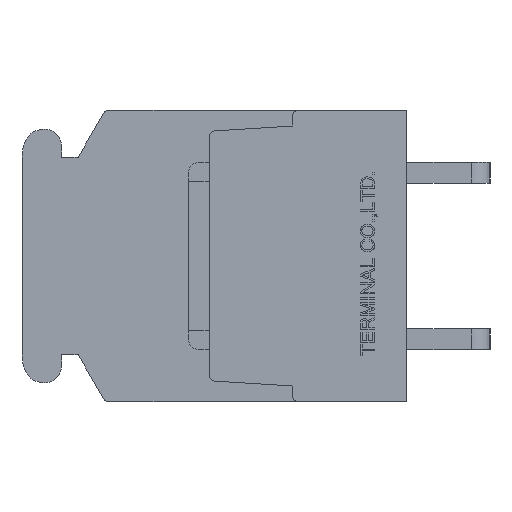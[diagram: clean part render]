
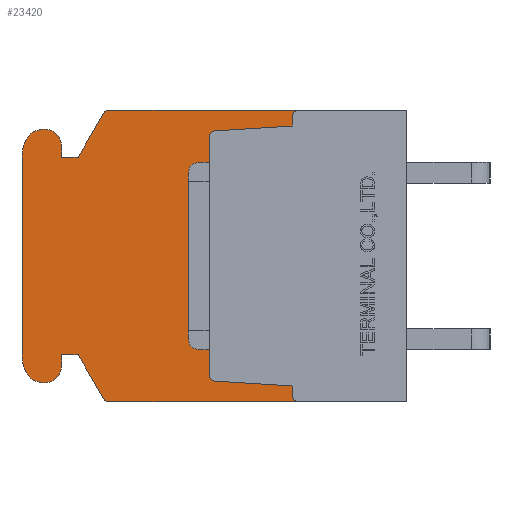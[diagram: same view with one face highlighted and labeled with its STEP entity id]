
A CAD part, left-side view. The second image highlights one B-rep face of the part: STEP entity #23420.
In plain terms, the highlighted planar face has unit normal (-1, 0, 0).
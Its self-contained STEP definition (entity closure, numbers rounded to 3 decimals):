
#437=CIRCLE('',#23824,0.3);
#438=CIRCLE('',#23828,0.3);
#439=CIRCLE('',#23830,0.3);
#440=CIRCLE('',#23834,0.3);
#887=CIRCLE('',#25143,0.3);
#888=CIRCLE('',#25144,0.8);
#889=CIRCLE('',#25145,1.);
#890=CIRCLE('',#25146,2.);
#891=CIRCLE('',#25147,2.);
#892=CIRCLE('',#25148,1.);
#893=CIRCLE('',#25149,0.8);
#894=CIRCLE('',#25150,0.3);
#1274=VERTEX_POINT('',#30489);
#1275=VERTEX_POINT('',#30490);
#1628=VERTEX_POINT('',#32011);
#1629=VERTEX_POINT('',#32015);
#1630=VERTEX_POINT('',#32019);
#1631=VERTEX_POINT('',#32023);
#1632=VERTEX_POINT('',#32027);
#1633=VERTEX_POINT('',#32028);
#1634=VERTEX_POINT('',#32033);
#1635=VERTEX_POINT('',#32037);
#2883=VERTEX_POINT('',#35846);
#2918=VERTEX_POINT('',#35953);
#3238=VERTEX_POINT('',#36962);
#3239=VERTEX_POINT('',#36964);
#3240=VERTEX_POINT('',#36966);
#3241=VERTEX_POINT('',#36968);
#3242=VERTEX_POINT('',#36970);
#3243=VERTEX_POINT('',#36972);
#3244=VERTEX_POINT('',#36974);
#3245=VERTEX_POINT('',#36976);
#3246=VERTEX_POINT('',#36978);
#3247=VERTEX_POINT('',#36980);
#3248=VERTEX_POINT('',#36982);
#3249=VERTEX_POINT('',#36984);
#3250=VERTEX_POINT('',#36986);
#3251=VERTEX_POINT('',#36988);
#3252=VERTEX_POINT('',#36990);
#3253=VERTEX_POINT('',#36992);
#3641=VECTOR('',#25389,1.);
#4050=VECTOR('',#25945,1.);
#4052=VECTOR('',#25948,1.);
#4057=VECTOR('',#25962,1.);
#4059=VECTOR('',#25965,1.);
#5359=VECTOR('',#28881,1.);
#5396=VECTOR('',#28976,1.);
#5791=VECTOR('',#29713,1.);
#5792=VECTOR('',#29714,1.);
#5793=VECTOR('',#29715,1.);
#5794=VECTOR('',#29718,1.);
#5795=VECTOR('',#29723,1.);
#5796=VECTOR('',#29728,1.);
#5797=VECTOR('',#29731,1.);
#5798=VECTOR('',#29732,1.);
#5799=VECTOR('',#29733,1.);
#6246=LINE('',#30488,#3641);
#6655=LINE('',#32014,#4050);
#6657=LINE('',#32018,#4052);
#6662=LINE('',#32032,#4057);
#6664=LINE('',#32036,#4059);
#7964=LINE('',#35847,#5359);
#8001=LINE('',#35952,#5396);
#8396=LINE('',#36963,#5791);
#8397=LINE('',#36965,#5792);
#8398=LINE('',#36967,#5793);
#8399=LINE('',#36971,#5794);
#8400=LINE('',#36977,#5795);
#8401=LINE('',#36983,#5796);
#8402=LINE('',#36987,#5797);
#8403=LINE('',#36989,#5798);
#8404=LINE('',#36991,#5799);
#8851=EDGE_CURVE('',#1274,#1275,#6246,.T.);
#9369=EDGE_CURVE('',#1628,#1274,#437,.T.);
#9371=EDGE_CURVE('',#1629,#1628,#6655,.T.);
#9373=EDGE_CURVE('',#1630,#1629,#6657,.T.);
#9375=EDGE_CURVE('',#1631,#1630,#438,.T.);
#9377=EDGE_CURVE('',#1632,#1633,#439,.T.);
#9380=EDGE_CURVE('',#1634,#1632,#6662,.T.);
#9382=EDGE_CURVE('',#1635,#1634,#6664,.T.);
#9384=EDGE_CURVE('',#1275,#1635,#440,.T.);
#11200=EDGE_CURVE('',#2883,#1633,#7964,.T.);
#11253=EDGE_CURVE('',#1631,#2918,#8001,.T.);
#11802=EDGE_CURVE('',#3238,#2883,#887,.T.);
#11803=EDGE_CURVE('',#3239,#3238,#8396,.T.);
#11804=EDGE_CURVE('',#3240,#3239,#8397,.T.);
#11805=EDGE_CURVE('',#3241,#3240,#8398,.T.);
#11806=EDGE_CURVE('',#3242,#3241,#888,.T.);
#11807=EDGE_CURVE('',#3243,#3242,#8399,.T.);
#11808=EDGE_CURVE('',#3244,#3243,#889,.T.);
#11809=EDGE_CURVE('',#3245,#3244,#890,.T.);
#11810=EDGE_CURVE('',#3246,#3245,#8400,.T.);
#11811=EDGE_CURVE('',#3247,#3246,#891,.T.);
#11812=EDGE_CURVE('',#3248,#3247,#892,.T.);
#11813=EDGE_CURVE('',#3249,#3248,#8401,.T.);
#11814=EDGE_CURVE('',#3250,#3249,#893,.T.);
#11815=EDGE_CURVE('',#3251,#3250,#8402,.T.);
#11816=EDGE_CURVE('',#3252,#3251,#8403,.T.);
#11817=EDGE_CURVE('',#3253,#3252,#8404,.T.);
#11818=EDGE_CURVE('',#2918,#3253,#894,.T.);
#18269=ORIENTED_EDGE('',*,*,#9377,.T.);
#18270=ORIENTED_EDGE('',*,*,#11200,.F.);
#18271=ORIENTED_EDGE('',*,*,#11802,.F.);
#18272=ORIENTED_EDGE('',*,*,#11803,.F.);
#18273=ORIENTED_EDGE('',*,*,#11804,.F.);
#18274=ORIENTED_EDGE('',*,*,#11805,.F.);
#18275=ORIENTED_EDGE('',*,*,#11806,.F.);
#18276=ORIENTED_EDGE('',*,*,#11807,.F.);
#18277=ORIENTED_EDGE('',*,*,#11808,.F.);
#18278=ORIENTED_EDGE('',*,*,#11809,.F.);
#18279=ORIENTED_EDGE('',*,*,#11810,.F.);
#18280=ORIENTED_EDGE('',*,*,#11811,.F.);
#18281=ORIENTED_EDGE('',*,*,#11812,.F.);
#18282=ORIENTED_EDGE('',*,*,#11813,.F.);
#18283=ORIENTED_EDGE('',*,*,#11814,.F.);
#18284=ORIENTED_EDGE('',*,*,#11815,.F.);
#18285=ORIENTED_EDGE('',*,*,#11816,.F.);
#18286=ORIENTED_EDGE('',*,*,#11817,.F.);
#18287=ORIENTED_EDGE('',*,*,#11818,.F.);
#18288=ORIENTED_EDGE('',*,*,#11253,.F.);
#18289=ORIENTED_EDGE('',*,*,#9375,.T.);
#18290=ORIENTED_EDGE('',*,*,#9373,.T.);
#18291=ORIENTED_EDGE('',*,*,#9371,.T.);
#18292=ORIENTED_EDGE('',*,*,#9369,.T.);
#18293=ORIENTED_EDGE('',*,*,#8851,.T.);
#18294=ORIENTED_EDGE('',*,*,#9384,.T.);
#18295=ORIENTED_EDGE('',*,*,#9382,.T.);
#18296=ORIENTED_EDGE('',*,*,#9380,.T.);
#20662=EDGE_LOOP('',(#18269,#18270,#18271,#18272,#18273,#18274,#18275,#18276,
#18277,#18278,#18279,#18280,#18281,#18282,#18283,#18284,#18285,#18286,#18287,
#18288,#18289,#18290,#18291,#18292,#18293,#18294,#18295,#18296));
#22094=FACE_BOUND('',#20662,.T.);
#23420=ADVANCED_FACE('',(#22094),#39412,.F.);
#23824=AXIS2_PLACEMENT_3D('',#32010,#25941,#25942);
#23828=AXIS2_PLACEMENT_3D('',#32022,#25952,#25953);
#23830=AXIS2_PLACEMENT_3D('',#32026,#25957,#25958);
#23834=AXIS2_PLACEMENT_3D('',#32040,#25969,#25970);
#25142=AXIS2_PLACEMENT_3D('',#36960,#29710,$);
#25143=AXIS2_PLACEMENT_3D('',#36961,#29711,#29712);
#25144=AXIS2_PLACEMENT_3D('',#36969,#29716,#29717);
#25145=AXIS2_PLACEMENT_3D('',#36973,#29719,#29720);
#25146=AXIS2_PLACEMENT_3D('',#36975,#29721,#29722);
#25147=AXIS2_PLACEMENT_3D('',#36979,#29724,#29725);
#25148=AXIS2_PLACEMENT_3D('',#36981,#29726,#29727);
#25149=AXIS2_PLACEMENT_3D('',#36985,#29729,#29730);
#25150=AXIS2_PLACEMENT_3D('',#36993,#29734,#29735);
#25389=DIRECTION('',(0.,0.,1.));
#25941=DIRECTION('',(1.,0.,0.));
#25942=DIRECTION('',(0.,0.,-0.3));
#25945=DIRECTION('',(0.,0.998,0.062));
#25948=DIRECTION('',(0.,0.,1.));
#25952=DIRECTION('',(1.,0.,0.));
#25953=DIRECTION('',(0.,0.,-0.3));
#25957=DIRECTION('',(1.,0.,0.));
#25958=DIRECTION('',(0.,0.,-0.3));
#25962=DIRECTION('',(0.,0.,1.));
#25965=DIRECTION('',(0.,-0.998,0.062));
#25969=DIRECTION('',(1.,0.,0.));
#25970=DIRECTION('',(0.,0.,-0.3));
#28881=DIRECTION('',(0.,-1.,0.));
#28976=DIRECTION('',(0.,1.,0.));
#29710=DIRECTION('',(1.,0.,0.));
#29711=DIRECTION('',(1.,0.,0.));
#29712=DIRECTION('',(0.,0.,-0.3));
#29713=DIRECTION('',(0.,-0.5,0.866));
#29714=DIRECTION('',(0.,-1.,0.));
#29715=DIRECTION('',(0.,0.,-1.));
#29716=DIRECTION('',(1.,0.,0.));
#29717=DIRECTION('',(0.,0.,-0.8));
#29718=DIRECTION('',(0.,-1.,0.));
#29719=DIRECTION('',(1.,0.,0.));
#29720=DIRECTION('',(0.,0.,-1.));
#29721=DIRECTION('',(1.,0.,0.));
#29722=DIRECTION('',(0.,0.,-2.));
#29723=DIRECTION('',(0.,0.,1.));
#29724=DIRECTION('',(1.,0.,0.));
#29725=DIRECTION('',(0.,0.,-2.));
#29726=DIRECTION('',(1.,0.,0.));
#29727=DIRECTION('',(0.,0.,-1.));
#29728=DIRECTION('',(0.,1.,0.));
#29729=DIRECTION('',(1.,0.,0.));
#29730=DIRECTION('',(0.,0.,-0.8));
#29731=DIRECTION('',(0.,0.,-1.));
#29732=DIRECTION('',(0.,1.,0.));
#29733=DIRECTION('',(0.,0.5,0.866));
#29734=DIRECTION('',(1.,0.,0.));
#29735=DIRECTION('',(0.,0.,-0.3));
#30488=CARTESIAN_POINT('',(8.15,9.5,0.));
#30489=CARTESIAN_POINT('',(8.15,9.5,-5.718));
#30490=CARTESIAN_POINT('',(8.15,9.5,5.718));
#32010=CARTESIAN_POINT('',(8.15,9.2,-5.718));
#32011=CARTESIAN_POINT('',(8.15,9.219,-6.018));
#32014=CARTESIAN_POINT('',(8.15,8.522,-6.061));
#32015=CARTESIAN_POINT('',(8.15,5.5,-6.25));
#32018=CARTESIAN_POINT('',(8.15,5.5,-3.237));
#32019=CARTESIAN_POINT('',(8.15,5.5,-6.7));
#32022=CARTESIAN_POINT('',(8.15,5.2,-6.7));
#32023=CARTESIAN_POINT('',(8.15,5.2,-7.));
#32026=CARTESIAN_POINT('',(8.15,5.2,6.7));
#32027=CARTESIAN_POINT('',(8.15,5.5,6.7));
#32028=CARTESIAN_POINT('',(8.15,5.2,7.));
#32032=CARTESIAN_POINT('',(8.15,5.5,3.238));
#32033=CARTESIAN_POINT('',(8.15,5.5,6.25));
#32036=CARTESIAN_POINT('',(8.15,8.522,6.061));
#32037=CARTESIAN_POINT('',(8.15,9.219,6.018));
#32040=CARTESIAN_POINT('',(8.15,9.2,5.718));
#35846=CARTESIAN_POINT('',(8.15,14.327,7.));
#35847=CARTESIAN_POINT('',(8.15,14.327,7.));
#35952=CARTESIAN_POINT('',(8.15,0.,-7.));
#35953=CARTESIAN_POINT('',(8.15,14.327,-7.));
#36960=CARTESIAN_POINT('',(8.15,9.311,0.));
#36961=CARTESIAN_POINT('',(8.15,14.327,6.7));
#36962=CARTESIAN_POINT('',(8.15,14.587,6.85));
#36963=CARTESIAN_POINT('',(8.15,15.8,4.75));
#36964=CARTESIAN_POINT('',(8.15,15.8,4.75));
#36965=CARTESIAN_POINT('',(8.15,16.6,4.75));
#36966=CARTESIAN_POINT('',(8.15,16.6,4.75));
#36967=CARTESIAN_POINT('',(8.15,16.6,5.3));
#36968=CARTESIAN_POINT('',(8.15,16.6,5.3));
#36969=CARTESIAN_POINT('',(8.15,17.4,5.3));
#36970=CARTESIAN_POINT('',(8.15,17.4,6.1));
#36971=CARTESIAN_POINT('',(8.15,17.437,6.1));
#36972=CARTESIAN_POINT('',(8.15,17.437,6.1));
#36973=CARTESIAN_POINT('',(8.15,17.437,5.1));
#36974=CARTESIAN_POINT('',(8.15,18.373,5.45));
#36975=CARTESIAN_POINT('',(8.15,16.5,4.75));
#36976=CARTESIAN_POINT('',(8.15,18.5,4.75));
#36977=CARTESIAN_POINT('',(8.15,18.5,-4.75));
#36978=CARTESIAN_POINT('',(8.15,18.5,-4.75));
#36979=CARTESIAN_POINT('',(8.15,16.5,-4.75));
#36980=CARTESIAN_POINT('',(8.15,18.373,-5.45));
#36981=CARTESIAN_POINT('',(8.15,17.437,-5.1));
#36982=CARTESIAN_POINT('',(8.15,17.437,-6.1));
#36983=CARTESIAN_POINT('',(8.15,17.4,-6.1));
#36984=CARTESIAN_POINT('',(8.15,17.4,-6.1));
#36985=CARTESIAN_POINT('',(8.15,17.4,-5.3));
#36986=CARTESIAN_POINT('',(8.15,16.6,-5.3));
#36987=CARTESIAN_POINT('',(8.15,16.6,-4.75));
#36988=CARTESIAN_POINT('',(8.15,16.6,-4.75));
#36989=CARTESIAN_POINT('',(8.15,15.8,-4.75));
#36990=CARTESIAN_POINT('',(8.15,15.8,-4.75));
#36991=CARTESIAN_POINT('',(8.15,14.587,-6.85));
#36992=CARTESIAN_POINT('',(8.15,14.587,-6.85));
#36993=CARTESIAN_POINT('',(8.15,14.327,-6.7));
#39412=PLANE('',#25142);
